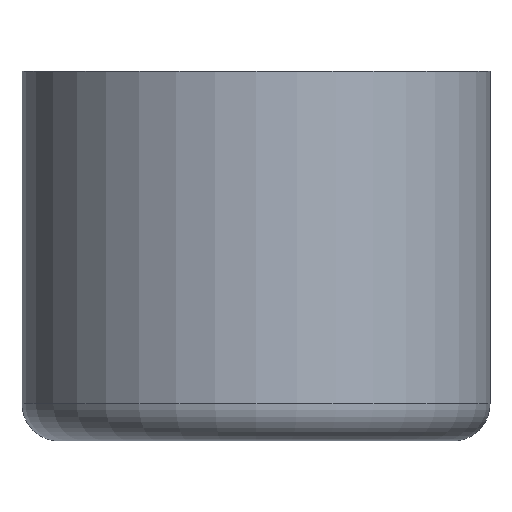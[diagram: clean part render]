
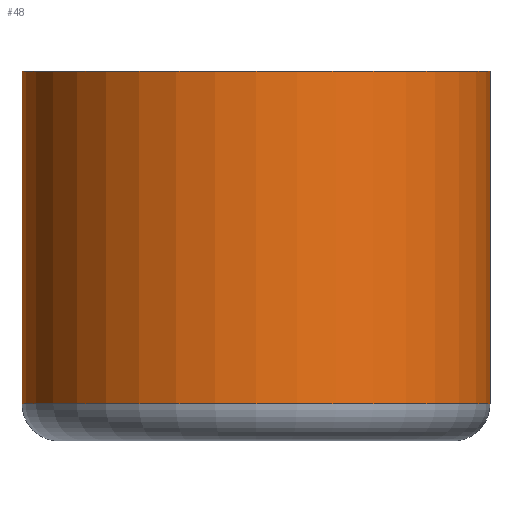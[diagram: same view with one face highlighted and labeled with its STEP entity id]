
A CAD part, front view. The second image highlights one B-rep face of the part: STEP entity #48.
In plain terms, the highlighted cylindrical face has radius 31.625 mm (diameter 63.25 mm), a partial arc.
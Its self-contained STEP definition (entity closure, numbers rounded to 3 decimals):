
#30 = EDGE_CURVE ( 'NONE', #150, #143, #187, .T. ) ;
#31 = EDGE_CURVE ( 'NONE', #150, #153, #96, .T. ) ;
#33 = EDGE_CURVE ( 'NONE', #143, #111, #86, .T. ) ;
#38 = EDGE_CURVE ( 'NONE', #153, #111, #208, .T. ) ;
#48 = ADVANCED_FACE ( 'NONE', ( #259 ), #262, .T. ) ;
#57 = VECTOR ( 'NONE', #218, 1000. ) ;
#58 = AXIS2_PLACEMENT_3D ( 'NONE', #260, #252, #263 ) ;
#72 = VECTOR ( 'NONE', #193, 1000. ) ;
#81 = AXIS2_PLACEMENT_3D ( 'NONE', #195, #196, #197 ) ;
#86 = CIRCLE ( 'NONE', #97, 31.625 ) ;
#96 = CIRCLE ( 'NONE', #81, 31.625 ) ;
#97 = AXIS2_PLACEMENT_3D ( 'NONE', #199, #200, #201 ) ;
#111 = VERTEX_POINT ( 'NONE', #271 ) ;
#129 = EDGE_LOOP ( 'NONE', ( #131, #134, #137, #139 ) ) ;
#131 = ORIENTED_EDGE ( 'NONE', *, *, #38, .F. ) ;
#134 = ORIENTED_EDGE ( 'NONE', *, *, #31, .F. ) ;
#137 = ORIENTED_EDGE ( 'NONE', *, *, #30, .T. ) ;
#139 = ORIENTED_EDGE ( 'NONE', *, *, #33, .T. ) ;
#143 = VERTEX_POINT ( 'NONE', #274 ) ;
#150 = VERTEX_POINT ( 'NONE', #275 ) ;
#153 = VERTEX_POINT ( 'NONE', #266 ) ;
#187 = LINE ( 'NONE', #192, #72 ) ;
#192 = CARTESIAN_POINT ( 'NONE',  ( -31.625, 0., 50. ) ) ;
#193 = DIRECTION ( 'NONE',  ( 0., 0., -1. ) ) ;
#195 = CARTESIAN_POINT ( 'NONE',  ( 0., 0., 50. ) ) ;
#196 = DIRECTION ( 'NONE',  ( 0., 0., 1. ) ) ;
#197 = DIRECTION ( 'NONE',  ( 1., 0., 0. ) ) ;
#199 = CARTESIAN_POINT ( 'NONE',  ( 0., 0., 5. ) ) ;
#200 = DIRECTION ( 'NONE',  ( 0., 0., 1. ) ) ;
#201 = DIRECTION ( 'NONE',  ( 1., 0., 0. ) ) ;
#208 = LINE ( 'NONE', #209, #57 ) ;
#209 = CARTESIAN_POINT ( 'NONE',  ( 31.625, 0., 50. ) ) ;
#218 = DIRECTION ( 'NONE',  ( 0., 0., -1. ) ) ;
#252 = DIRECTION ( 'NONE',  ( 0., 0., -1. ) ) ;
#259 = FACE_OUTER_BOUND ( 'NONE', #129, .T. ) ;
#260 = CARTESIAN_POINT ( 'NONE',  ( 0., 0., 50. ) ) ;
#262 = CYLINDRICAL_SURFACE ( 'NONE', #58, 31.625 ) ;
#263 = DIRECTION ( 'NONE',  ( -1., 0., 0. ) ) ;
#266 = CARTESIAN_POINT ( 'NONE',  ( 31.625, 0., 50. ) ) ;
#271 = CARTESIAN_POINT ( 'NONE',  ( 31.625, 0., 5. ) ) ;
#274 = CARTESIAN_POINT ( 'NONE',  ( -31.625, 0., 5. ) ) ;
#275 = CARTESIAN_POINT ( 'NONE',  ( -31.625, 0., 50. ) ) ;
